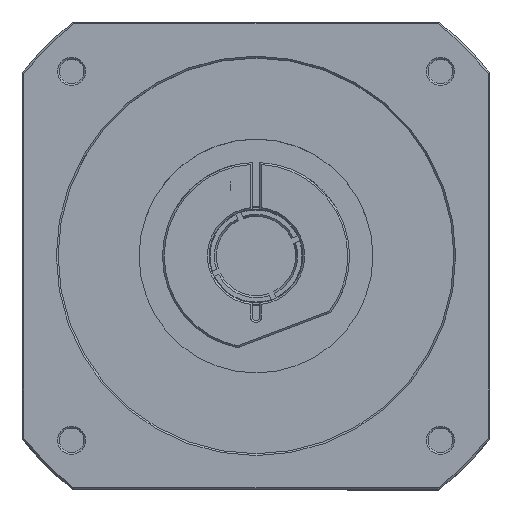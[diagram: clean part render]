
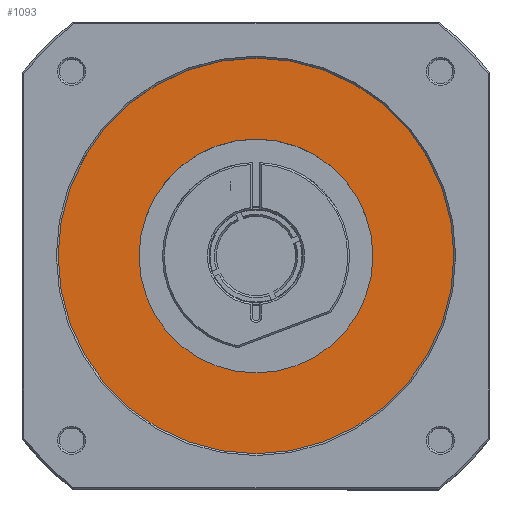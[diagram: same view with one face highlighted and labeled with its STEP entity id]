
A CAD part, top view. The second image highlights one B-rep face of the part: STEP entity #1093.
In plain terms, the highlighted planar face has unit normal (0, 0, 1).
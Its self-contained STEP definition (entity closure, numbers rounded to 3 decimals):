
#93 = CARTESIAN_POINT ( 'NONE',  ( 0., 0., 26. ) ) ;
#105 = PLANE ( 'NONE',  #6668 ) ;
#524 = CIRCLE ( 'NONE', #1048, 32.5 ) ;
#710 = CARTESIAN_POINT ( 'NONE',  ( 0., 0., 26. ) ) ;
#910 = CARTESIAN_POINT ( 'NONE',  ( 55., 0., 26. ) ) ;
#1048 = AXIS2_PLACEMENT_3D ( 'NONE', #93, #10759, #11745 ) ;
#1093 = ADVANCED_FACE ( 'NONE', ( #11324, #1898 ), #105, .T. ) ;
#1345 = DIRECTION ( 'NONE',  ( 1., 0., 0. ) ) ;
#1898 = FACE_OUTER_BOUND ( 'NONE', #12467, .T. ) ;
#2803 = DIRECTION ( 'NONE',  ( 0., 0., 1. ) ) ;
#2998 = CARTESIAN_POINT ( 'NONE',  ( -32.5, 0., 26. ) ) ;
#3599 = CARTESIAN_POINT ( 'NONE',  ( 0., 0., 26. ) ) ;
#3723 = VERTEX_POINT ( 'NONE', #2998 ) ;
#4113 = CIRCLE ( 'NONE', #4122, 55. ) ;
#4122 = AXIS2_PLACEMENT_3D ( 'NONE', #710, #9490, #4639 ) ;
#4639 = DIRECTION ( 'NONE',  ( 1., 0., 0. ) ) ;
#4913 = EDGE_CURVE ( 'NONE', #3723, #9784, #524, .T. ) ;
#5902 = ORIENTED_EDGE ( 'NONE', *, *, #11317, .F. ) ;
#6112 = CIRCLE ( 'NONE', #9121, 55. ) ;
#6623 = EDGE_LOOP ( 'NONE', ( #5902, #8002 ) ) ;
#6668 = AXIS2_PLACEMENT_3D ( 'NONE', #8039, #10898, #1345 ) ;
#7782 = DIRECTION ( 'NONE',  ( 1., 0., 0. ) ) ;
#8002 = ORIENTED_EDGE ( 'NONE', *, *, #4913, .F. ) ;
#8039 = CARTESIAN_POINT ( 'NONE',  ( 0., 0., 26. ) ) ;
#8156 = ORIENTED_EDGE ( 'NONE', *, *, #8933, .T. ) ;
#8664 = CARTESIAN_POINT ( 'NONE',  ( -55., 0., 26. ) ) ;
#8933 = EDGE_CURVE ( 'NONE', #11547, #10518, #4113, .T. ) ;
#9121 = AXIS2_PLACEMENT_3D ( 'NONE', #11750, #2803, #7782 ) ;
#9490 = DIRECTION ( 'NONE',  ( 0., 0., 1. ) ) ;
#9757 = ORIENTED_EDGE ( 'NONE', *, *, #10881, .T. ) ;
#9784 = VERTEX_POINT ( 'NONE', #11349 ) ;
#10423 = AXIS2_PLACEMENT_3D ( 'NONE', #3599, #12385, #10617 ) ;
#10518 = VERTEX_POINT ( 'NONE', #910 ) ;
#10617 = DIRECTION ( 'NONE',  ( 1., 0., 0. ) ) ;
#10759 = DIRECTION ( 'NONE',  ( 0., 0., 1. ) ) ;
#10881 = EDGE_CURVE ( 'NONE', #10518, #11547, #6112, .T. ) ;
#10898 = DIRECTION ( 'NONE',  ( 0., 0., 1. ) ) ;
#11317 = EDGE_CURVE ( 'NONE', #9784, #3723, #12283, .T. ) ;
#11324 = FACE_BOUND ( 'NONE', #6623, .T. ) ;
#11349 = CARTESIAN_POINT ( 'NONE',  ( 32.5, 0., 26. ) ) ;
#11547 = VERTEX_POINT ( 'NONE', #8664 ) ;
#11745 = DIRECTION ( 'NONE',  ( 1., 0., 0. ) ) ;
#11750 = CARTESIAN_POINT ( 'NONE',  ( 0., 0., 26. ) ) ;
#12283 = CIRCLE ( 'NONE', #10423, 32.5 ) ;
#12385 = DIRECTION ( 'NONE',  ( 0., 0., 1. ) ) ;
#12467 = EDGE_LOOP ( 'NONE', ( #9757, #8156 ) ) ;
